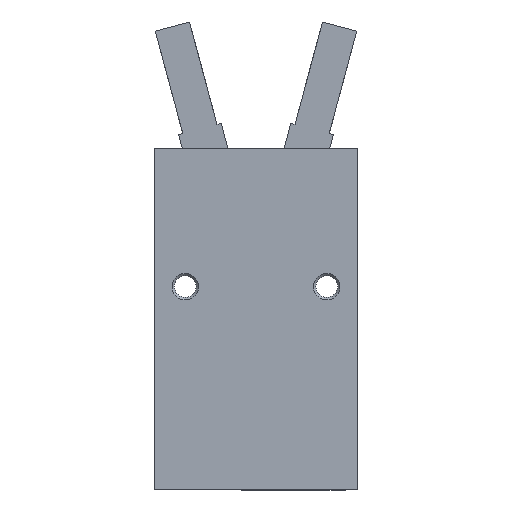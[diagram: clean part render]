
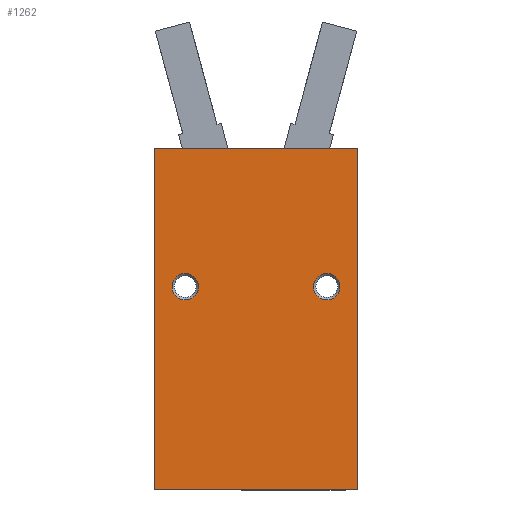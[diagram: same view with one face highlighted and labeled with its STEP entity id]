
A CAD part, front view. The second image highlights one B-rep face of the part: STEP entity #1262.
In plain terms, the highlighted planar face has unit normal (0, -1, 0).
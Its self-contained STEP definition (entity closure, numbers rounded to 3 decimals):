
#108=LINE('',#1940,#204);
#112=LINE('',#1949,#208);
#143=LINE('',#2016,#239);
#146=LINE('',#2025,#242);
#204=VECTOR('',#1549,1000.);
#208=VECTOR('',#1555,1000.);
#239=VECTOR('',#1610,1000.);
#242=VECTOR('',#1621,1000.);
#365=ORIENTED_EDGE('',*,*,#647,.T.);
#366=ORIENTED_EDGE('',*,*,#648,.T.);
#367=ORIENTED_EDGE('',*,*,#649,.T.);
#368=ORIENTED_EDGE('',*,*,#610,.F.);
#369=ORIENTED_EDGE('',*,*,#644,.F.);
#370=ORIENTED_EDGE('',*,*,#606,.T.);
#606=EDGE_CURVE('',#750,#749,#108,.T.);
#610=EDGE_CURVE('',#753,#754,#112,.T.);
#644=EDGE_CURVE('',#750,#753,#143,.T.);
#647=EDGE_CURVE('',#778,#778,#854,.T.);
#648=EDGE_CURVE('',#779,#779,#855,.T.);
#649=EDGE_CURVE('',#749,#754,#146,.T.);
#749=VERTEX_POINT('',#1939);
#750=VERTEX_POINT('',#1941);
#753=VERTEX_POINT('',#1948);
#754=VERTEX_POINT('',#1950);
#778=VERTEX_POINT('',#2022);
#779=VERTEX_POINT('',#2024);
#854=CIRCLE('',#1379,1.5);
#855=CIRCLE('',#1380,1.5);
#929=EDGE_LOOP('',(#365));
#930=EDGE_LOOP('',(#366));
#931=EDGE_LOOP('',(#367,#368,#369,#370));
#1075=FACE_BOUND('',#929,.T.);
#1076=FACE_BOUND('',#930,.T.);
#1077=FACE_BOUND('',#931,.T.);
#1219=PLANE('',#1378);
#1262=ADVANCED_FACE('',(#1075,#1076,#1077),#1219,.F.);
#1378=AXIS2_PLACEMENT_3D('',#2020,#1615,#1616);
#1379=AXIS2_PLACEMENT_3D('',#2021,#1617,#1618);
#1380=AXIS2_PLACEMENT_3D('',#2023,#1619,#1620);
#1549=DIRECTION('',(0.,0.,-1.));
#1555=DIRECTION('',(0.,0.,-1.));
#1610=DIRECTION('',(1.,0.,0.));
#1615=DIRECTION('',(0.,1.,0.));
#1616=DIRECTION('',(0.,0.,1.));
#1617=DIRECTION('',(0.,1.,0.));
#1618=DIRECTION('',(0.,0.,1.));
#1619=DIRECTION('',(0.,1.,0.));
#1620=DIRECTION('',(0.,0.,1.));
#1621=DIRECTION('',(1.,0.,0.));
#1939=CARTESIAN_POINT('',(-11.5,-8.2,0.));
#1940=CARTESIAN_POINT('',(-11.5,-8.2,38.6));
#1941=CARTESIAN_POINT('',(-11.5,-8.2,38.6));
#1948=CARTESIAN_POINT('',(11.5,-8.2,38.6));
#1949=CARTESIAN_POINT('',(11.5,-8.2,38.6));
#1950=CARTESIAN_POINT('',(11.5,-8.2,0.));
#2016=CARTESIAN_POINT('',(-11.5,-8.2,38.6));
#2020=CARTESIAN_POINT('',(-11.5,-8.2,38.6));
#2021=CARTESIAN_POINT('',(8.,-8.2,23.));
#2022=CARTESIAN_POINT('',(8.,-8.2,24.5));
#2023=CARTESIAN_POINT('',(-8.,-8.2,23.));
#2024=CARTESIAN_POINT('',(-8.,-8.2,24.5));
#2025=CARTESIAN_POINT('',(-11.5,-8.2,0.));
